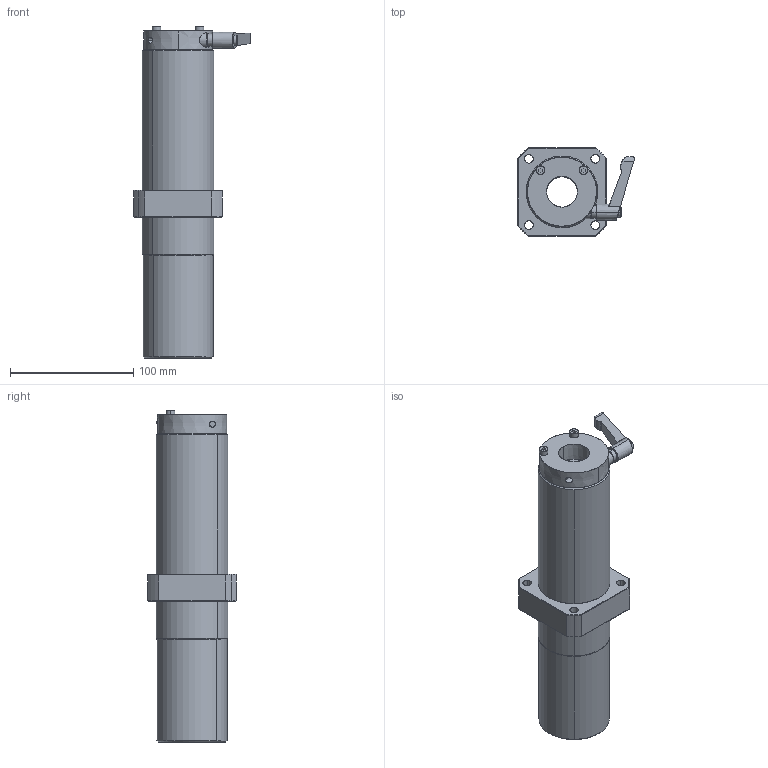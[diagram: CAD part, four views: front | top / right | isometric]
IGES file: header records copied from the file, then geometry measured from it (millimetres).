
Start section: SolidWorks IGES file using analytic representation for surfaces
Global section: file name: C:\Users\yamad\Desktop\IGES\LFWLC25MF-CS.IGS; native system: SolidWorks 2019; preprocessor: SolidWorks 2019; author: yamad; date: 230627.104855; units: millimetre
Bounding box: 94.6 x 72 x 269 mm (x, y, z)
Surface area: 97558.3 mm2 (no closed solid volume)
Topology: 0 solids, 0 shells, 239 faces, 5390 edges, 5390 vertices
Faces by surface type: bspline 123, revolution 116
